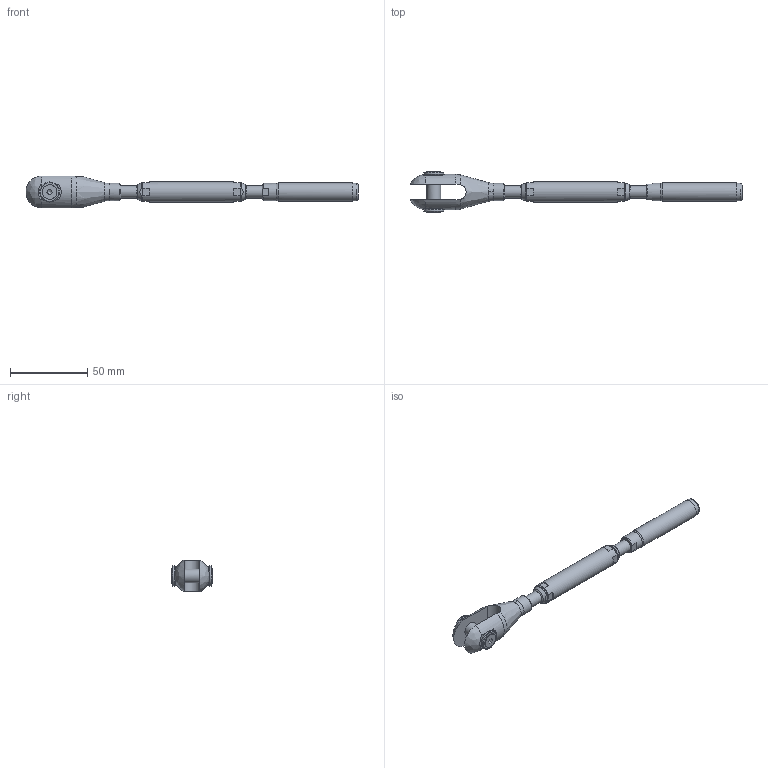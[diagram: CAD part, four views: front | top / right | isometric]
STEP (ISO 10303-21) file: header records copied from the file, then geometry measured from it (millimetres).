
FILE_DESCRIPTION(/* description */ (''),/* implementation_level */ '2;1');
FILE_NAME(/* name */ 'TBC 06_42CrMo4',/* time_stamp */ '2023-05-23T18:16:32+02:00',/* author */ (''),/* organization */ (''),/* preprocessor_version */ 'ST-DEVELOPER v16.5',/* originating_system */ 'Rhino 7.22',/* authorisation */ '');
FILE_SCHEMA (('CONFIG_CONTROL_DESIGN'));
Length unit declared in the file: millimetre
Products named in the file (1): Document
Bounding box: 215.34 x 27.11 x 20.71 mm (x, y, z)
Volume: 26104.3 mm3; surface area: 16250.6 mm2
Topology: 10 solids, 10 shells, 141 faces, 383 edges, 264 vertices
Faces by surface type: plane 65, bspline 41, cylinder 35
Full cylindrical faces by diameter (mm): 4.134 x2, 5 x2, 5.5 x2, 6.647 x4, 8 x2, 9 x1, 9.43 x2, 10 x3, 11.2 x2, 11.8 x1, 13 x3
Entity records: 5874 total; most frequent: CARTESIAN_POINT 3446, ORIENTED_EDGE 758, EDGE_CURVE 379, VERTEX_POINT 264, EDGE_LOOP 161, B_SPLINE_CURVE_WITH_KNOTS 154, ADVANCED_FACE 141, FACE_OUTER_BOUND 141
